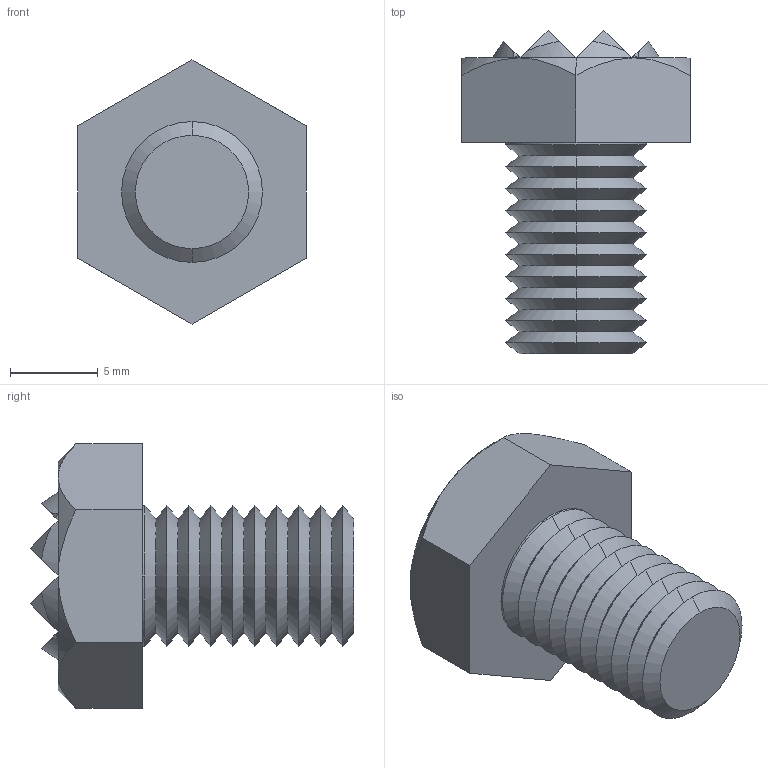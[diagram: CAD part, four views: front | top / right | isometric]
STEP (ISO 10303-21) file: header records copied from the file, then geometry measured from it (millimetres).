
FILE_DESCRIPTION (( 'STEP AP203' ), '1' );
FILE_NAME ('35400.W0003.step', '2017-07-03T07:20:20', ( 'User' ), ( '' ), 'SwSTEP 2.0', 'SolidWorks 2009', '' );
FILE_SCHEMA (( 'CONFIG_CONTROL_DESIGN' ));
Length unit declared in the file: millimetre
Products named in the file (1): 35400.W0003
Bounding box: 13 x 18.4 x 15.01 mm (x, y, z)
Volume: 1226.3 mm3; surface area: 950.9 mm2
Topology: 1 solids, 1 shells, 116 faces, 220 edges, 108 vertices
Faces by surface type: cone 57, plane 57, cylinder 2
Entity records: 2888 total; most frequent: CARTESIAN_POINT 617, DIRECTION 473, ORIENTED_EDGE 440, EDGE_CURVE 220, AXIS2_PLACEMENT_3D 180, EDGE_LOOP 118, ADVANCED_FACE 116, FACE_OUTER_BOUND 116
